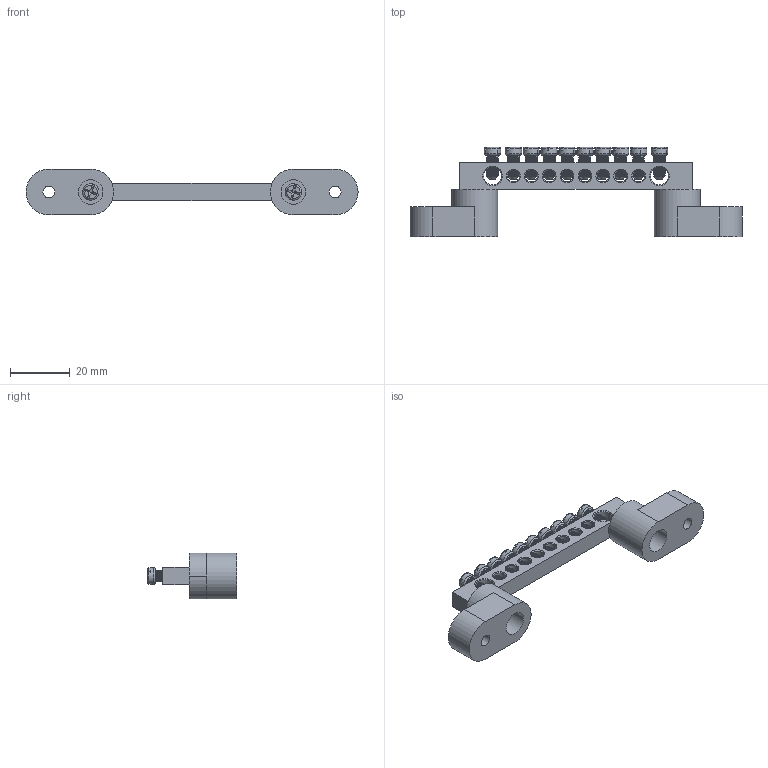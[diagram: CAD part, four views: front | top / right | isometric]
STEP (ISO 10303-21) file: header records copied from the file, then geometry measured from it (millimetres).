
FILE_DESCRIPTION (( 'STEP AP214' ), '1' );
FILE_NAME ('277882 OptiKit BB-T-N-S-10-6õ9-ñèíèé.STEP', '2020-02-06T12:30:26', ( '' ), ( '' ), 'SwSTEP 2.0', 'SolidWorks 2018', '' );
FILE_SCHEMA (( 'AUTOMOTIVE_DESIGN' ));
Length unit declared in the file: millimetre
Products named in the file (5): DIN èçîëÿòîð 2; Øèíà íóëåâàÿ ñ êðåïåæíûìè îòâåðñòèÿìè ïî êðàÿì 6õ9 10-2_1; Âèíò ì4; Øèíà 6õ9 10 2; 277882 OptiKit BB-T-N-S-10-6õ9-ñèíèé
Assembly tree (16 placements, depth 3):
  277882 OptiKit BB-T-N-S-10-6õ9-ñèíèé
    Øèíà íóëåâàÿ ñ êðåïåæíûìè îòâåðñòèÿìè ïî êðàÿì 6õ9 10-2_1
      Øèíà 6õ9 10 2
      Âèíò ì4  x10
    DIN èçîëÿòîð 2  x2
    Âèíò ì4  x2
Bounding box: 111.4 x 29.9 x 15.4 mm (x, y, z)
Volume: 13177.2 mm3; surface area: 10425.2 mm2
Topology: 15 solids, 15 shells, 960 faces, 2660 edges, 1720 vertices
Faces by surface type: plane 342, cylinder 338, cone 148, torus 84, bspline 48
Entity records: 8367 total; most frequent: CARTESIAN_POINT 3595, ORIENTED_EDGE 910, DIRECTION 896, EDGE_CURVE 455, AXIS2_PLACEMENT_3D 356, VERTEX_POINT 288, EDGE_LOOP 225, VECTOR 184
